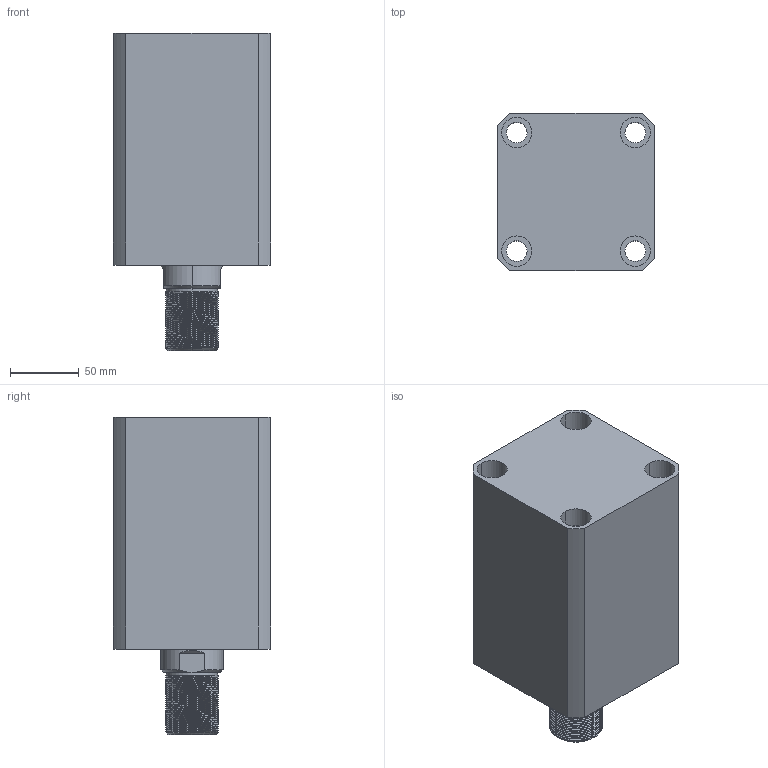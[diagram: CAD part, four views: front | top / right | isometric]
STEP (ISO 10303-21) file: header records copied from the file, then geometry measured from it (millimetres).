
FILE_DESCRIPTION (( 'STEP AP214' ), '1' );
FILE_NAME ('chtb-sdma80x90wasm.STEP', '2018-05-29T03:30:29', ( 'Windows' ), ( 'Microsoft' ), 'SwSTEP 2.0', 'SolidWorks 2015', '' );
FILE_SCHEMA (( 'AUTOMOTIVE_DESIGN' ));
Length unit declared in the file: millimetre
Products named in the file (4): CHTB-SDMA80X90NBT; CHTB-SD80X90WHSG; CHTB-SD80QG; chtb-sdma80x90wasm
Assembly tree (3 placements, depth 2):
  chtb-sdma80x90wasm
    CHTB-SD80QG
    CHTB-SD80X90WHSG
    CHTB-SDMA80X90NBT
Bounding box: 114 x 114 x 230 mm (x, y, z)
Volume: 1761826.5 mm3; surface area: 249581.7 mm2
Topology: 3 solids, 3 shells, 251 faces, 695 edges, 466 vertices
Faces by surface type: cylinder 163, plane 38, torus 18, bspline 16, cone 16
Entity records: 20277 total; most frequent: CARTESIAN_POINT 14301, ORIENTED_EDGE 1382, DIRECTION 1068, EDGE_CURVE 691, VERTEX_POINT 466, AXIS2_PLACEMENT_3D 433, EDGE_LOOP 289, ADVANCED_FACE 251
